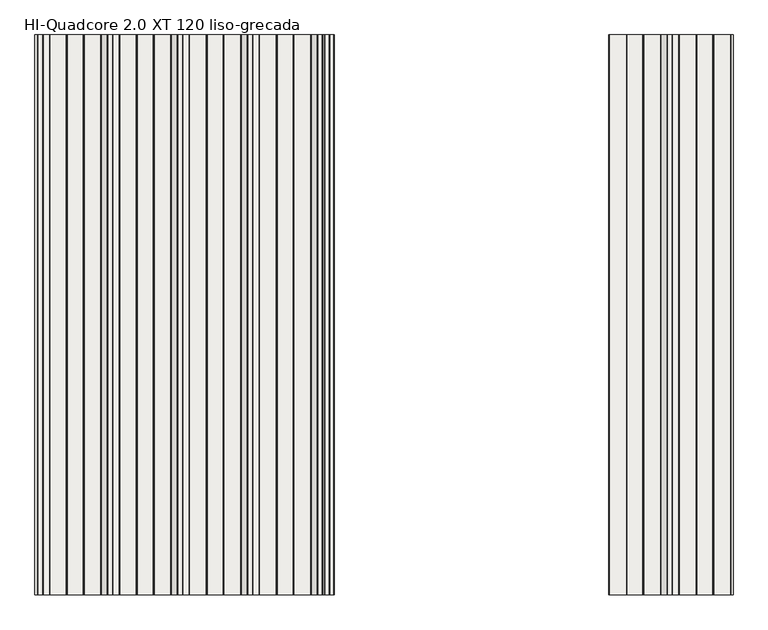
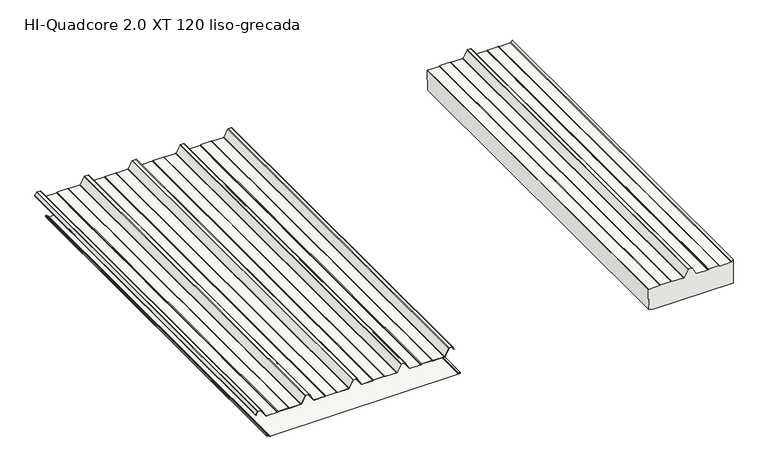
"""IFC4 building model written with IfcOpenShell, lengths in millimetres: slab geometry, HI_QuadCore2.0XT-XT DUAL : HI-Quadcore 2.0 XT 120 liso-grecada."""

from ifc_helpers import new_model, si_unit, point, frame, frame_2d, origin, place, context, project, spatial, polyline, circle_curve, trimmed, segment, composite_curve, outline, extrude, source, transform, mapped, element, save
from ifc_brep_helpers import plane_surface, cylinder_surface, revolved_surface, advanced_brep


def hi_quadcore_2_0_xt_120_liso_grecada_1b2f7235(model_context):
    return source(origin(), model_context, "Body", "SolidModel", [
        extrude(outline(composite_curve([segment(trimmed(circle_curve(frame_2d((123.0, 2615.7454575)), 3.8), [point((121.1370073, 2619.0574446))], [point((119.2, 2615.7454575))], True, "CARTESIAN"), True, "CONTINUOUS"), segment(polyline([(119.2, 2615.7454575), (119.2, 2557.5510443)]), True, "CONTINUOUS"), segment(trimmed(circle_curve(frame_2d((123.0, 2557.5510443)), 3.8), [point((119.2, 2557.5510443))], [point((119.6973596, 2555.671532))], True, "CARTESIAN"), True, "CONTINUOUS"), segment(polyline([(119.6973596, 2555.671532), (120.912055, 2553.5370944)]), True, "CONTINUOUS"), segment(trimmed(circle_curve(frame_2d((119.0, 2552.4489557)), 2.2), [point((120.912055, 2553.5370944))], [point((121.2, 2552.4489557))], False, "CARTESIAN"), True, "CONTINUOUS"), segment(polyline([(121.2, 2552.4489557), (121.2, 2497.5510443)]), True, "CONTINUOUS"), segment(trimmed(circle_curve(frame_2d((119.0, 2497.5510443)), 2.2), [point((121.2, 2497.5510443))], [point((120.912055, 2496.4629056))], False, "CARTESIAN"), True, "CONTINUOUS"), segment(polyline([(120.912055, 2496.4629056), (119.6973596, 2494.328468)]), True, "CONTINUOUS"), segment(trimmed(circle_curve(frame_2d((123.0, 2492.4489557)), 3.8), [point((119.6973596, 2494.328468))], [point((119.2, 2492.4489557))], True, "CARTESIAN"), True, "CONTINUOUS"), segment(polyline([(119.2, 2492.4489557), (119.2, 2434.2545425)]), True, "CONTINUOUS"), segment(trimmed(circle_curve(frame_2d((123.0, 2434.2545425)), 3.8), [point((119.2, 2434.2545425))], [point((121.1370073, 2430.9425554))], True, "CARTESIAN"), True, "CONTINUOUS"), segment(polyline([(121.1370073, 2430.9425554), (158.0785747, 2410.1629237)]), True, "CONTINUOUS"), segment(trimmed(circle_curve(frame_2d((157.0, 2408.2454575)), 2.2), [point((158.0785747, 2410.1629237))], [point((159.2, 2408.2454575))], False, "CARTESIAN"), True, "CONTINUOUS"), segment(polyline([(159.2, 2408.2454575), (159.2, 2391.7545425)]), True, "CONTINUOUS"), segment(trimmed(circle_curve(frame_2d((157.0, 2391.7545425)), 2.2), [point((159.2, 2391.7545425))], [point((158.0785747, 2389.8370763))], False, "CARTESIAN"), True, "CONTINUOUS"), segment(polyline([(158.0785747, 2389.8370763), (121.1370073, 2369.0574446)]), True, "CONTINUOUS"), segment(trimmed(circle_curve(frame_2d((123.0, 2365.7454575)), 3.8), [point((121.1370073, 2369.0574446))], [point((119.2, 2365.7454575))], True, "CARTESIAN"), True, "CONTINUOUS"), segment(polyline([(119.2, 2365.7454575), (119.2, 2307.5510443)]), True, "CONTINUOUS"), segment(trimmed(circle_curve(frame_2d((123.0, 2307.5510443)), 3.8), [point((119.2, 2307.5510443))], [point((119.6973596, 2305.671532))], True, "CARTESIAN"), True, "CONTINUOUS"), segment(polyline([(119.6973596, 2305.671532), (120.912055, 2303.5370944)]), True, "CONTINUOUS"), segment(trimmed(circle_curve(frame_2d((119.0, 2302.4489557)), 2.2), [point((120.912055, 2303.5370944))], [point((121.2, 2302.4489557))], False, "CARTESIAN"), True, "CONTINUOUS"), segment(polyline([(121.2, 2302.4489557), (121.2, 2247.5510443)]), True, "CONTINUOUS"), segment(trimmed(circle_curve(frame_2d((119.0, 2247.5510443)), 2.2), [point((121.2, 2247.5510443))], [point((120.912055, 2246.4629056))], False, "CARTESIAN"), True, "CONTINUOUS"), segment(polyline([(120.912055, 2246.4629056), (119.6973596, 2244.328468)]), True, "CONTINUOUS"), segment(trimmed(circle_curve(frame_2d((123.0, 2242.4489557)), 3.8), [point((119.6973596, 2244.328468))], [point((119.2, 2242.4489557))], True, "CARTESIAN"), True, "CONTINUOUS"), segment(polyline([(119.2, 2242.4489557), (119.2, 2184.6545425)]), True, "CONTINUOUS"), segment(trimmed(circle_curve(frame_2d((123.0, 2184.6545425)), 3.8), [point((119.2, 2184.6545425))], [point((121.2048889, 2181.3052775))], True, "CARTESIAN"), True, "CONTINUOUS"), segment(polyline([(121.2048889, 2181.3052775), (7.0308356, 2184.4622222), (7.2414508, 2185.8457731), (11.9758652, 2185.8456418)]), True, "CONTINUOUS"), segment(trimmed(circle_curve(frame_2d((11.9759207, 2187.8456418)), 2.0), [point((11.9758652, 2185.8456418))], [point((13.390095, 2186.4313891))], True, "CARTESIAN"), True, "CONTINUOUS"), segment(polyline([(13.390095, 2186.4313891), (15.4963556, 2188.5375329), (14.9306702, 2189.1032183), (12.8244253, 2186.9970902)]), True, "CONTINUOUS"), segment(trimmed(circle_curve(frame_2d((11.9759207, 2187.8456418)), 1.2), [point((12.8244253, 2186.9970902))], [point((11.9758874, 2186.6456418))], False, "CARTESIAN"), True, "CONTINUOUS"), segment(polyline([(11.9758874, 2186.6456418), (8.3337062, 2186.6457428)]), True, "CONTINUOUS"), segment(trimmed(circle_curve(frame_2d((8.3337394, 2187.8457428)), 1.2), [point((8.3337062, 2186.6457428))], [point((7.1369439, 2187.7581044))], False, "CARTESIAN"), True, "CONTINUOUS"), segment(polyline([(7.1369439, 2187.7581044), (6.3740035, 2198.1768616)]), True, "CONTINUOUS"), segment(trimmed(circle_curve(frame_2d((3.5874027, 2197.9032632)), 2.8), [point((6.3740035, 2198.1768616))], [point((3.5874804, 2200.7032632))], True, "CARTESIAN"), True, "CONTINUOUS"), segment(polyline([(3.5874804, 2200.7032632), (1.9861605, 2200.7033076)]), True, "CONTINUOUS"), segment(trimmed(circle_curve(frame_2d((1.9861938, 2201.9033076)), 1.2), [point((1.9861605, 2200.7033076))], [point((0.7861938, 2201.9033408))], False, "CARTESIAN"), True, "CONTINUOUS"), segment(polyline([(0.7861938, 2201.9033408), (0.7979214, 2624.9329116), (131.582282, 2624.9329116), (121.1370073, 2619.0574446)]), True, "CONTINUOUS")], self_intersect=False)), frame((0.0, 0.0, 0.0), z_axis=(0.0, 1.0, 0.0), x_axis=(0.0, 0.0, 1.0)), (0.0, 0.0, 1.0), 2000.0),
        advanced_brep(
        [(186.4313891, 0.0, 13.3795578), (185.8456418, 0.0, 11.9654043), (185.8456037, 0.0, 8.2995811), (187.6996787, 0.0, 6.328543), (198.1077232, 0.0, 5.5663871), (199.9032632, 0.0, 3.5769209), (199.9033076, 0.0, 1.9756011), (201.903363, 0.0, -0.0243435), (1197.9162803, 0.0, 0.003269), (1199.9046779, 0.0, 2.0032908), (1199.904653, 0.0, 2.9012893), (1198.0077486, 0.0, 4.8985749), (1186.1928118, 0.0, 5.7933732), (1184.3438482, 0.0, 7.7876066), (1184.3437386, 0.0, 11.7402379), (1183.757913, 0.0, 13.1544352), (1182.3436602, 0.0, 14.5686095), (1181.7779748, 0.0, 14.0029241), (1183.1922433, 0.0, 12.5887341), (1183.5437386, 0.0, 11.7402157), (1183.5438482, 0.0, 7.7875844), (1186.1323972, 0.0, 4.9956577), (1197.958132, 0.0, 4.1000416), (1199.104653, 0.0, 2.9012672), (1199.1046779, 0.0, 2.0032686), (1197.9136554, 0.0, 0.8032689), (201.9033408, 0.0, 0.7756565), (200.7033076, 0.0, 1.9756233), (200.7032632, 0.0, 3.5769431), (198.1768616, 0.0, 6.3634663), (187.7581044, 0.0, 7.1264067), (186.6457428, 0.0, 8.3231689), (186.6456418, 0.0, 11.965396), (186.9970902, 0.0, 12.8138881), (189.1032183, 0.0, 14.920133), (188.5375329, 0.0, 15.4858184), (186.4313891, 2000.0, 13.3795578), (188.5375329, 2000.0, 15.4858184), (189.1032183, 2000.0, 14.920133), (186.9970902, 2000.0, 12.8138881), (186.6456418, 2000.0, 11.965396), (186.6456037, 2000.0, 8.2995728), (187.7581044, 2000.0, 7.1264067), (198.1768616, 2000.0, 6.3634663), (200.7032632, 2000.0, 3.5769431), (200.7033076, 2000.0, 1.9756233), (201.9033408, 2000.0, 0.7756565), (1197.9136554, 2000.0, 0.8032689), (1199.1046779, 2000.0, 2.0032686), (1199.104653, 2000.0, 2.9012672), (1197.958132, 2000.0, 4.1000416), (1186.1323972, 2000.0, 4.9956577), (1183.5438482, 2000.0, 7.7875844), (1183.5437386, 2000.0, 11.7402157), (1183.1922433, 2000.0, 12.5887341), (1181.7779748, 2000.0, 14.0029241), (1182.3436602, 2000.0, 14.5686095), (1183.757913, 2000.0, 13.1544352), (1184.3437386, 2000.0, 11.7402379), (1184.3438482, 2000.0, 7.7876066), (1186.1928118, 2000.0, 5.7933732), (1198.0077486, 2000.0, 4.8985749), (1199.904653, 2000.0, 2.9012893), (1199.9046779, 2000.0, 2.0032908), (1197.9162803, 2000.0, 0.003269), (201.903363, 2000.0, -0.0243435), (199.9033076, 2000.0, 1.9756011), (199.9032632, 2000.0, 3.5769209), (198.1077232, 2000.0, 5.5663871), (187.6996787, 2000.0, 6.328543), (185.8457428, 2000.0, 8.3231467), (185.8456418, 2000.0, 11.9654043)],
        [
            (0, 1, circle_curve(frame((187.8456418, 0.0, 11.9653834), z_axis=(0.0, -1.0, 0.0), x_axis=(1.0, 0.0, 0.0)), 2.0)),
            (1, 2),
            (2, 3, circle_curve(frame((187.8457428, 0.0, 8.3232022), z_axis=(0.0, -1.0, 0.0), x_axis=(1.0, 0.0, 0.0)), 2.0)),
            (3, 4),
            (4, 5, circle_curve(frame((197.9032632, 0.0, 3.5768655), z_axis=(0.0, 1.0, 0.0), x_axis=(1.0, 0.0, 0.0)), 2.0)),
            (5, 6),
            (6, 7, circle_curve(frame((201.9033076, 0.0, 1.9756565), z_axis=(0.0, -1.0, 0.0), x_axis=(1.0, 0.0, 0.0)), 2.0)),
            (7, 8),
            (8, 9, circle_curve(frame((1197.9046779, 0.0, 2.0032353), z_axis=(0.0, -1.0, 0.0), x_axis=(1.0, 0.0, 0.0)), 2.0)),
            (9, 10),
            (10, 11, circle_curve(frame((1197.904653, 0.0, 2.9012339), z_axis=(0.0, -1.0, 0.0), x_axis=(1.0, 0.0, 0.0)), 2.0)),
            (11, 12),
            (12, 13, circle_curve(frame((1186.3438482, 0.0, 7.7876621), z_axis=(0.0, 1.0, 0.0), x_axis=(1.0, 0.0, 0.0)), 2.0)),
            (13, 14),
            (14, 15, circle_curve(frame((1182.3437386, 0.0, 11.7401824), z_axis=(0.0, -1.0, 0.0), x_axis=(1.0, 0.0, 0.0)), 2.0)),
            (15, 16),
            (16, 17),
            (17, 18),
            (18, 19, circle_curve(frame((1182.3437386, 0.0, 11.7401824), z_axis=(0.0, 1.0, 0.0), x_axis=(1.0, 0.0, 0.0)), 1.2)),
            (19, 20),
            (20, 21, circle_curve(frame((1186.3438482, 0.0, 7.7876621), z_axis=(0.0, -1.0, 0.0), x_axis=(1.0, 0.0, 0.0)), 2.8)),
            (21, 22),
            (22, 23, circle_curve(frame((1197.904653, 0.0, 2.9012339), z_axis=(0.0, 1.0, 0.0), x_axis=(1.0, 0.0, 0.0)), 1.2)),
            (23, 24),
            (24, 25, circle_curve(frame((1197.9046779, 0.0, 2.0032353), z_axis=(0.0, 1.0, 0.0), x_axis=(1.0, 0.0, 0.0)), 1.2)),
            (25, 26),
            (26, 27, circle_curve(frame((201.9033076, 0.0, 1.9756565), z_axis=(0.0, 1.0, 0.0), x_axis=(1.0, 0.0, 0.0)), 1.2)),
            (27, 28),
            (28, 29, circle_curve(frame((197.9032632, 0.0, 3.5768655), z_axis=(0.0, -1.0, 0.0), x_axis=(1.0, 0.0, 0.0)), 2.8)),
            (29, 30),
            (30, 31, circle_curve(frame((187.8457428, 0.0, 8.3232022), z_axis=(0.0, 1.0, 0.0), x_axis=(1.0, 0.0, 0.0)), 1.2)),
            (31, 32),
            (32, 33, circle_curve(frame((187.8456418, 0.0, 11.9653834), z_axis=(0.0, 1.0, 0.0), x_axis=(1.0, 0.0, 0.0)), 1.2)),
            (33, 34),
            (34, 35),
            (35, 0),
            (36, 37),
            (37, 38),
            (38, 39),
            (39, 40, circle_curve(frame((187.8456418, 2000.0, 11.9653834), z_axis=(0.0, -1.0, 0.0), x_axis=(1.0, 0.0, 0.0)), 1.2)),
            (40, 41),
            (41, 42, circle_curve(frame((187.8457428, 2000.0, 8.3232022), z_axis=(0.0, -1.0, 0.0), x_axis=(1.0, 0.0, 0.0)), 1.2)),
            (42, 43),
            (43, 44, circle_curve(frame((197.9032632, 2000.0, 3.5768655), z_axis=(0.0, 1.0, 0.0), x_axis=(1.0, 0.0, 0.0)), 2.8)),
            (44, 45),
            (45, 46, circle_curve(frame((201.9033076, 2000.0, 1.9756565), z_axis=(0.0, -1.0, 0.0), x_axis=(1.0, 0.0, 0.0)), 1.2)),
            (46, 47),
            (47, 48, circle_curve(frame((1197.9046779, 2000.0, 2.0032353), z_axis=(0.0, -1.0, 0.0), x_axis=(1.0, 0.0, 0.0)), 1.2)),
            (48, 49),
            (49, 50, circle_curve(frame((1197.904653, 2000.0, 2.9012339), z_axis=(0.0, -1.0, 0.0), x_axis=(1.0, 0.0, 0.0)), 1.2)),
            (50, 51),
            (51, 52, circle_curve(frame((1186.3438482, 2000.0, 7.7876621), z_axis=(0.0, 1.0, 0.0), x_axis=(1.0, 0.0, 0.0)), 2.8)),
            (52, 53),
            (53, 54, circle_curve(frame((1182.3437386, 2000.0, 11.7401824), z_axis=(0.0, -1.0, 0.0), x_axis=(1.0, 0.0, 0.0)), 1.2)),
            (54, 55),
            (55, 56),
            (56, 57),
            (57, 58, circle_curve(frame((1182.3437386, 2000.0, 11.7401824), z_axis=(0.0, 1.0, 0.0), x_axis=(1.0, 0.0, 0.0)), 2.0)),
            (58, 59),
            (59, 60, circle_curve(frame((1186.3438482, 2000.0, 7.7876621), z_axis=(0.0, -1.0, 0.0), x_axis=(1.0, 0.0, 0.0)), 2.0)),
            (60, 61),
            (61, 62, circle_curve(frame((1197.904653, 2000.0, 2.9012339), z_axis=(0.0, 1.0, 0.0), x_axis=(1.0, 0.0, 0.0)), 2.0)),
            (62, 63),
            (63, 64, circle_curve(frame((1197.9046779, 2000.0, 2.0032353), z_axis=(0.0, 1.0, 0.0), x_axis=(1.0, 0.0, 0.0)), 2.0)),
            (64, 65),
            (65, 66, circle_curve(frame((201.9033076, 2000.0, 1.9756565), z_axis=(0.0, 1.0, 0.0), x_axis=(1.0, 0.0, 0.0)), 2.0)),
            (66, 67),
            (67, 68, circle_curve(frame((197.9032632, 2000.0, 3.5768655), z_axis=(0.0, -1.0, 0.0), x_axis=(1.0, 0.0, 0.0)), 2.0)),
            (68, 69),
            (69, 70, circle_curve(frame((187.8457428, 2000.0, 8.3232022), z_axis=(0.0, 1.0, 0.0), x_axis=(1.0, 0.0, 0.0)), 2.0)),
            (70, 71),
            (71, 36, circle_curve(frame((187.8456418, 2000.0, 11.9653834), z_axis=(0.0, 1.0, 0.0), x_axis=(1.0, 0.0, 0.0)), 2.0)),
            (0, 36),
            (71, 1),
            (70, 2),
            (69, 3),
            (68, 4),
            (67, 5),
            (66, 6),
            (65, 7),
            (64, 8),
            (63, 9),
            (62, 10),
            (61, 11),
            (60, 12),
            (59, 13),
            (58, 14),
            (57, 15),
            (56, 16),
            (55, 17),
            (54, 18),
            (53, 19),
            (52, 20),
            (51, 21),
            (50, 22),
            (49, 23),
            (48, 24),
            (47, 25),
            (46, 26),
            (45, 27),
            (44, 28),
            (43, 29),
            (42, 30),
            (41, 31),
            (40, 32),
            (39, 33),
            (38, 34),
            (37, 35),
        ],
        [
            plane_surface(frame((189.8456418, 0.0, 11.9653834), z_axis=(0.0, -1.0, 0.0), x_axis=(0.0, 0.0, 1.0))),
            plane_surface(frame((189.8456418, 2000.0, 11.9653834), z_axis=(0.0, 1.0, 0.0), x_axis=(0.0, 0.0, -1.0))),
            cylinder_surface(frame((187.8456418, 2000.0, 11.9653834), z_axis=(0.0, -1.0, 0.0), x_axis=(1.0, 0.0, 0.0)), 2.0),
            plane_surface(frame((185.8456418, 0.0, 11.9654043), z_axis=(-0.9999999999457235, 0.0, 1.041887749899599e-05), x_axis=(0.0, 1.0, 0.0))),
            cylinder_surface(frame((187.8457428, 2000.0, 8.3232022), z_axis=(0.0, -1.0, 0.0), x_axis=(1.0, 0.0, 0.0)), 2.0),
            plane_surface(frame((187.6996787, 0.0, 6.328543), z_axis=(-0.07303203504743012, 0.0, -0.9973295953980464), x_axis=(0.0, 1.0, 0.0))),
            revolved_surface(polyline([(199.9032632, 2000.0, 3.5768655), (199.9032632, 0.0, 3.5768655)]), (197.9032632, 2000.0, 3.5768655), (0.0, 1.0, 0.0)),
            plane_surface(frame((199.9032632, 0.0, 3.5769209), z_axis=(-0.9999999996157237, 0.0, -2.7722781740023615e-05), x_axis=(0.0, 1.0, 0.0))),
            cylinder_surface(frame((201.9033076, 2000.0, 1.9756565), z_axis=(0.0, -1.0, 0.0), x_axis=(1.0, 0.0, 0.0)), 2.0),
            plane_surface(frame((201.903363, 0.0, -0.0243435), z_axis=(2.772298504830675e-05, 0.0, -0.9999999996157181), x_axis=(0.0, 1.0, 0.0))),
            cylinder_surface(frame((1197.9046779, 2000.0, 2.0032353), z_axis=(0.0, -1.0, 0.0), x_axis=(1.0, 0.0, 0.0)), 2.0),
            plane_surface(frame((1199.9046779, 0.0, 2.0032908), z_axis=(0.9999999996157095, 0.0, 2.7723295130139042e-05), x_axis=(0.0, 1.0, 0.0))),
            cylinder_surface(frame((1197.904653, 2000.0, 2.9012339), z_axis=(0.0, -1.0, 0.0), x_axis=(1.0, 0.0, 0.0)), 2.0),
            plane_surface(frame((1198.0077486, 0.0, 4.8985749), z_axis=(0.07551822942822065, 0.0, 0.9971444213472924), x_axis=(0.0, 1.0, 0.0))),
            revolved_surface(polyline([(1188.3438482, 2000.0, 7.7876621), (1188.3438482, 0.0, 7.7876621)]), (1186.3438482, 2000.0, 7.7876621), (0.0, 1.0, 0.0)),
            plane_surface(frame((1184.3438482, 0.0, 7.7876066), z_axis=(0.9999999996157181, 0.0, 2.7722984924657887e-05), x_axis=(0.0, 1.0, 0.0))),
            cylinder_surface(frame((1182.3437386, 2000.0, 11.7401824), z_axis=(0.0, -1.0, 0.0), x_axis=(1.0, 0.0, 0.0)), 2.0),
            plane_surface(frame((1183.757913, 0.0, 13.1544352), z_axis=(0.7070871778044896, 0.0, 0.7071263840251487), x_axis=(0.0, 1.0, 0.0))),
            plane_surface(frame((1182.3436602, 0.0, 14.5686095), z_axis=(-0.7071067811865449, 0.0, 0.7071067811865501), x_axis=(0.0, 1.0, 0.0))),
            plane_surface(frame((1181.7779748, 0.0, 14.0029241), z_axis=(-0.7070871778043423, 0.0, -0.707126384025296), x_axis=(0.0, 1.0, 0.0))),
            revolved_surface(polyline([(1183.5437386, 2000.0, 11.7401824), (1183.5437386, 0.0, 11.7401824)]), (1182.3437386, 2000.0, 11.7401824), (0.0, 1.0, 0.0)),
            plane_surface(frame((1183.5437386, 0.0, 11.7402157), z_axis=(-0.9999999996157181, 0.0, -2.7722985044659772e-05), x_axis=(0.0, 1.0, 0.0))),
            cylinder_surface(frame((1186.3438482, 2000.0, 7.7876621), z_axis=(0.0, -1.0, 0.0), x_axis=(1.0, 0.0, 0.0)), 2.8),
            plane_surface(frame((1186.1323972, 0.0, 4.9956577), z_axis=(-0.07551822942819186, 0.0, -0.9971444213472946), x_axis=(0.0, 1.0, 0.0))),
            revolved_surface(polyline([(1199.104653, 2000.0, 2.9012339), (1199.104653, 0.0, 2.9012339)]), (1197.904653, 2000.0, 2.9012339), (0.0, 1.0, 0.0)),
            plane_surface(frame((1199.104653, 0.0, 2.9012672), z_axis=(-0.9999999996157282, 0.0, -2.7722622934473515e-05), x_axis=(0.0, 1.0, 0.0))),
            revolved_surface(polyline([(1199.1046779, 2000.0, 2.0032353), (1199.1046779, 0.0, 2.0032353)]), (1197.9046779, 2000.0, 2.0032353), (0.0, 1.0, 0.0)),
            plane_surface(frame((1197.9136554, 0.0, 0.8032689), z_axis=(-2.7722985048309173e-05, 0.0, 0.9999999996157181), x_axis=(0.0, 1.0, 0.0))),
            revolved_surface(polyline([(203.1033076, 2000.0, 1.9756565), (203.1033076, 0.0, 1.9756565)]), (201.9033076, 2000.0, 1.9756565), (0.0, 1.0, 0.0)),
            plane_surface(frame((200.7033076, 0.0, 1.9756233), z_axis=(0.9999999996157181, 0.0, 2.7722983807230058e-05), x_axis=(0.0, 1.0, 0.0))),
            cylinder_surface(frame((197.9032632, 2000.0, 3.5768655), z_axis=(0.0, -1.0, 0.0), x_axis=(1.0, 0.0, 0.0)), 2.8),
            plane_surface(frame((198.1768616, 0.0, 6.3634663), z_axis=(0.0730320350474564, 0.0, 0.9973295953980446), x_axis=(0.0, 1.0, 0.0))),
            revolved_surface(polyline([(189.0457428, 2000.0, 8.3232022), (189.0457428, 0.0, 8.3232022)]), (187.8457428, 2000.0, 8.3232022), (0.0, 1.0, 0.0)),
            plane_surface(frame((186.6456037, 0.0, 8.2995728), z_axis=(0.9999999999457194, 0.0, -1.0419274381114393e-05), x_axis=(0.0, 1.0, 0.0))),
            revolved_surface(polyline([(189.0456418, 2000.0, 11.9653834), (189.0456418, 0.0, 11.9653834)]), (187.8456418, 2000.0, 11.9653834), (0.0, 1.0, 0.0)),
            plane_surface(frame((186.9970902, 0.0, 12.8138881), z_axis=(0.7071263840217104, 0.0, -0.7070871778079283), x_axis=(0.0, 1.0, 0.0))),
            plane_surface(frame((189.1032183, 0.0, 14.920133), z_axis=(0.7071067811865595, 0.0, 0.7071067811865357), x_axis=(0.0, 1.0, 0.0))),
            plane_surface(frame((188.5375329, 0.0, 15.4858184), z_axis=(-0.7071263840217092, 0.0, 0.7070871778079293), x_axis=(0.0, 1.0, 0.0))),
        ],
        [
            (0, [[1, 2, 3, 4, 5, 6, 7, 8, 9, 10, 11, 12, 13, 14, 15, 16, 17, 18, 19, 20, 21, 22, 23, 24, 25, 26, 27, 28, 29, 30, 31, 32, 33, 34, 35, 36]]),
            (1, [[37, 38, 39, 40, 41, 42, 43, 44, 45, 46, 47, 48, 49, 50, 51, 52, 53, 54, 55, 56, 57, 58, 59, 60, 61, 62, 63, 64, 65, 66, 67, 68, 69, 70, 71, 72]]),
            (2, [[-1, 73, -72, 74]]),
            (3, [[-2, -74, -71, 75]]),
            (4, [[-3, -75, -70, 76]]),
            (5, [[-4, -76, -69, 77]]),
            (6, [[-5, -77, -68, 78]]),
            (7, [[-6, -78, -67, 79]]),
            (8, [[-7, -79, -66, 80]]),
            (9, [[-8, -80, -65, 81]]),
            (10, [[-9, -81, -64, 82]]),
            (11, [[-10, -82, -63, 83]]),
            (12, [[-11, -83, -62, 84]]),
            (13, [[-12, -84, -61, 85]]),
            (14, [[-13, -85, -60, 86]]),
            (15, [[-14, -86, -59, 87]]),
            (16, [[-15, -87, -58, 88]]),
            (17, [[-16, -88, -57, 89]]),
            (18, [[-17, -89, -56, 90]]),
            (19, [[-18, -90, -55, 91]]),
            (20, [[-19, -91, -54, 92]]),
            (21, [[-20, -92, -53, 93]]),
            (22, [[-21, -93, -52, 94]]),
            (23, [[-22, -94, -51, 95]]),
            (24, [[-23, -95, -50, 96]]),
            (25, [[-24, -96, -49, 97]]),
            (26, [[-25, -97, -48, 98]]),
            (27, [[-26, -98, -47, 99]]),
            (28, [[-27, -99, -46, 100]]),
            (29, [[-28, -100, -45, 101]]),
            (30, [[-29, -101, -44, 102]]),
            (31, [[-30, -102, -43, 103]]),
            (32, [[-31, -103, -42, 104]]),
            (33, [[-32, -104, -41, 105]]),
            (34, [[-33, -105, -40, 106]]),
            (35, [[-34, -106, -39, 107]]),
            (36, [[-35, -107, -38, 108]]),
            (37, [[-36, -108, -37, -73]]),
        ],
    ),
        extrude(outline(composite_curve([segment(polyline([(158.1649405, 138.5141429), (143.6579587, 130.3539656)]), True, "CONTINUOUS"), segment(trimmed(circle_curve(frame_2d((143.0451321, 131.443435)), 1.25), [point((143.6579587, 130.3539656))], [point((142.689225, 132.6416963))], False, "CARTESIAN"), True, "CONTINUOUS"), segment(polyline([(142.689225, 132.6416963), (145.7359115, 133.437141), (145.9380053, 132.663088), (142.9074492, 131.8718547)]), True, "CONTINUOUS"), segment(trimmed(circle_curve(frame_2d((143.0451321, 131.443435)), 0.45), [point((142.9074492, 131.8718547))], [point((143.2657497, 131.051226))], True, "CARTESIAN"), True, "CONTINUOUS"), segment(polyline([(143.2657497, 131.051226), (157.7727315, 139.2114033)]), True, "CONTINUOUS"), segment(trimmed(circle_curve(frame_2d((156.4, 141.6518148)), 2.8), [point((157.7727315, 139.2114033))], [point((159.2, 141.6518148))], True, "CARTESIAN"), True, "CONTINUOUS"), segment(polyline([(159.2, 141.6518148), (159.2, 158.9311117)]), True, "CONTINUOUS"), segment(trimmed(circle_curve(frame_2d((156.4, 158.9311117)), 2.8), [point((159.2, 158.9311117))], [point((157.5457267, 161.4859719))], True, "CARTESIAN"), True, "CONTINUOUS"), segment(polyline([(157.5457267, 161.4859719), (121.2048889, 181.3052775)]), True, "CONTINUOUS"), segment(trimmed(circle_curve(frame_2d((123.0, 184.6545425)), 3.8), [point((121.2048889, 181.3052775))], [point((119.2, 184.6545425))], False, "CARTESIAN"), True, "CONTINUOUS"), segment(polyline([(119.2, 184.6545425), (119.2, 242.4489557)]), True, "CONTINUOUS"), segment(trimmed(circle_curve(frame_2d((123.0, 242.4489557)), 3.8), [point((119.2, 242.4489557))], [point((119.6973596, 244.328468))], False, "CARTESIAN"), True, "CONTINUOUS"), segment(polyline([(119.6973596, 244.328468), (120.912055, 246.4629056)]), True, "CONTINUOUS"), segment(trimmed(circle_curve(frame_2d((119.0, 247.5510443)), 2.2), [point((120.912055, 246.4629056))], [point((121.2, 247.5510443))], True, "CARTESIAN"), True, "CONTINUOUS"), segment(polyline([(121.2, 247.5510443), (121.2, 302.4489557)]), True, "CONTINUOUS"), segment(trimmed(circle_curve(frame_2d((119.0, 302.4489557)), 2.2), [point((121.2, 302.4489557))], [point((120.912055, 303.5370944))], True, "CARTESIAN"), True, "CONTINUOUS"), segment(polyline([(120.912055, 303.5370944), (119.6973596, 305.671532)]), True, "CONTINUOUS"), segment(trimmed(circle_curve(frame_2d((123.0, 307.5510443)), 3.8), [point((119.6973596, 305.671532))], [point((119.2, 307.5510443))], False, "CARTESIAN"), True, "CONTINUOUS"), segment(polyline([(119.2, 307.5510443), (119.2, 365.7454575)]), True, "CONTINUOUS"), segment(trimmed(circle_curve(frame_2d((123.0, 365.7454575)), 3.8), [point((119.2, 365.7454575))], [point((121.1370073, 369.0574446))], False, "CARTESIAN"), True, "CONTINUOUS"), segment(polyline([(121.1370073, 369.0574446), (158.0785747, 389.8370763)]), True, "CONTINUOUS"), segment(trimmed(circle_curve(frame_2d((157.0, 391.7545425)), 2.2), [point((158.0785747, 389.8370763))], [point((159.2, 391.7545425))], True, "CARTESIAN"), True, "CONTINUOUS"), segment(polyline([(159.2, 391.7545425), (159.2, 408.2454575)]), True, "CONTINUOUS"), segment(trimmed(circle_curve(frame_2d((157.0, 408.2454575)), 2.2), [point((159.2, 408.2454575))], [point((158.0785747, 410.1629237))], True, "CARTESIAN"), True, "CONTINUOUS"), segment(polyline([(158.0785747, 410.1629237), (121.1370073, 430.9425554)]), True, "CONTINUOUS"), segment(trimmed(circle_curve(frame_2d((123.0, 434.2545425)), 3.8), [point((121.1370073, 430.9425554))], [point((119.2, 434.2545425))], False, "CARTESIAN"), True, "CONTINUOUS"), segment(polyline([(119.2, 434.2545425), (119.2, 492.4489557)]), True, "CONTINUOUS"), segment(trimmed(circle_curve(frame_2d((123.0, 492.4489557)), 3.8), [point((119.2, 492.4489557))], [point((119.6973596, 494.328468))], False, "CARTESIAN"), True, "CONTINUOUS"), segment(polyline([(119.6973596, 494.328468), (120.912055, 496.4629056)]), True, "CONTINUOUS"), segment(trimmed(circle_curve(frame_2d((119.0, 497.5510443)), 2.2), [point((120.912055, 496.4629056))], [point((121.2, 497.5510443))], True, "CARTESIAN"), True, "CONTINUOUS"), segment(polyline([(121.2, 497.5510443), (121.2, 552.4489557)]), True, "CONTINUOUS"), segment(trimmed(circle_curve(frame_2d((119.0, 552.4489557)), 2.2), [point((121.2, 552.4489557))], [point((120.912055, 553.5370944))], True, "CARTESIAN"), True, "CONTINUOUS"), segment(polyline([(120.912055, 553.5370944), (119.6973596, 555.671532)]), True, "CONTINUOUS"), segment(trimmed(circle_curve(frame_2d((123.0, 557.5510443)), 3.8), [point((119.6973596, 555.671532))], [point((119.2, 557.5510443))], False, "CARTESIAN"), True, "CONTINUOUS"), segment(polyline([(119.2, 557.5510443), (119.2, 615.7454575)]), True, "CONTINUOUS"), segment(trimmed(circle_curve(frame_2d((123.0, 615.7454575)), 3.8), [point((119.2, 615.7454575))], [point((121.1370073, 619.0574446))], False, "CARTESIAN"), True, "CONTINUOUS"), segment(polyline([(121.1370073, 619.0574446), (158.0785747, 639.8370763)]), True, "CONTINUOUS"), segment(trimmed(circle_curve(frame_2d((157.0, 641.7545425)), 2.2), [point((158.0785747, 639.8370763))], [point((159.2, 641.7545425))], True, "CARTESIAN"), True, "CONTINUOUS"), segment(polyline([(159.2, 641.7545425), (159.2, 658.2454575)]), True, "CONTINUOUS"), segment(trimmed(circle_curve(frame_2d((157.0, 658.2454575)), 2.2), [point((159.2, 658.2454575))], [point((158.0785747, 660.1629237))], True, "CARTESIAN"), True, "CONTINUOUS"), segment(polyline([(158.0785747, 660.1629237), (121.1370073, 680.9425554)]), True, "CONTINUOUS"), segment(trimmed(circle_curve(frame_2d((123.0, 684.2545425)), 3.8), [point((121.1370073, 680.9425554))], [point((119.2, 684.2545425))], False, "CARTESIAN"), True, "CONTINUOUS"), segment(polyline([(119.2, 684.2545425), (119.2, 742.4489557)]), True, "CONTINUOUS"), segment(trimmed(circle_curve(frame_2d((123.0, 742.4489557)), 3.8), [point((119.2, 742.4489557))], [point((119.6973596, 744.328468))], False, "CARTESIAN"), True, "CONTINUOUS"), segment(polyline([(119.6973596, 744.328468), (120.912055, 746.4629056)]), True, "CONTINUOUS"), segment(trimmed(circle_curve(frame_2d((119.0, 747.5510443)), 2.2), [point((120.912055, 746.4629056))], [point((121.2, 747.5510443))], True, "CARTESIAN"), True, "CONTINUOUS"), segment(polyline([(121.2, 747.5510443), (121.2, 802.4489557)]), True, "CONTINUOUS"), segment(trimmed(circle_curve(frame_2d((119.0, 802.4489557)), 2.2), [point((121.2, 802.4489557))], [point((120.912055, 803.5370944))], True, "CARTESIAN"), True, "CONTINUOUS"), segment(polyline([(120.912055, 803.5370944), (119.6973596, 805.671532)]), True, "CONTINUOUS"), segment(trimmed(circle_curve(frame_2d((123.0, 807.5510443)), 3.8), [point((119.6973596, 805.671532))], [point((119.2, 807.5510443))], False, "CARTESIAN"), True, "CONTINUOUS"), segment(polyline([(119.2, 807.5510443), (119.2, 865.7454575)]), True, "CONTINUOUS"), segment(trimmed(circle_curve(frame_2d((123.0, 865.7454575)), 3.8), [point((119.2, 865.7454575))], [point((121.1370073, 869.0574446))], False, "CARTESIAN"), True, "CONTINUOUS"), segment(polyline([(121.1370073, 869.0574446), (158.0785747, 889.8370763)]), True, "CONTINUOUS"), segment(trimmed(circle_curve(frame_2d((157.0, 891.7545425)), 2.2), [point((158.0785747, 889.8370763))], [point((159.2, 891.7545425))], True, "CARTESIAN"), True, "CONTINUOUS"), segment(polyline([(159.2, 891.7545425), (159.2, 908.2454575)]), True, "CONTINUOUS"), segment(trimmed(circle_curve(frame_2d((157.0, 908.2454575)), 2.2), [point((159.2, 908.2454575))], [point((158.0785747, 910.1629237))], True, "CARTESIAN"), True, "CONTINUOUS"), segment(polyline([(158.0785747, 910.1629237), (121.1370073, 930.9425554)]), True, "CONTINUOUS"), segment(trimmed(circle_curve(frame_2d((123.0, 934.2545425)), 3.8), [point((121.1370073, 930.9425554))], [point((119.2, 934.2545425))], False, "CARTESIAN"), True, "CONTINUOUS"), segment(polyline([(119.2, 934.2545425), (119.2, 992.4489557)]), True, "CONTINUOUS"), segment(trimmed(circle_curve(frame_2d((123.0, 992.4489557)), 3.8), [point((119.2, 992.4489557))], [point((119.6973596, 994.328468))], False, "CARTESIAN"), True, "CONTINUOUS"), segment(polyline([(119.6973596, 994.328468), (120.912055, 996.4629056)]), True, "CONTINUOUS"), segment(trimmed(circle_curve(frame_2d((119.0, 997.5510443)), 2.2), [point((120.912055, 996.4629056))], [point((121.2, 997.5510443))], True, "CARTESIAN"), True, "CONTINUOUS"), segment(polyline([(121.2, 997.5510443), (121.2, 1052.4489557)]), True, "CONTINUOUS"), segment(trimmed(circle_curve(frame_2d((119.0, 1052.4489557)), 2.2), [point((121.2, 1052.4489557))], [point((120.912055, 1053.5370944))], True, "CARTESIAN"), True, "CONTINUOUS"), segment(polyline([(120.912055, 1053.5370944), (119.6973596, 1055.671532)]), True, "CONTINUOUS"), segment(trimmed(circle_curve(frame_2d((123.0, 1057.5510443)), 3.8), [point((119.6973596, 1055.671532))], [point((119.2, 1057.5510443))], False, "CARTESIAN"), True, "CONTINUOUS"), segment(polyline([(119.2, 1057.5510443), (119.2, 1116.4208923)]), True, "CONTINUOUS"), segment(trimmed(circle_curve(frame_2d((123.0, 1116.4208923)), 3.8), [point((119.2, 1116.4208923))], [point((121.1583504, 1119.7447946))], False, "CARTESIAN"), True, "CONTINUOUS"), segment(polyline([(121.1583504, 1119.7447946), (158.0662182, 1140.1940602)]), True, "CONTINUOUS"), segment(trimmed(circle_curve(frame_2d((157.0, 1142.1184247)), 2.2), [point((158.0662182, 1140.1940602))], [point((159.2, 1142.1184247))], True, "CARTESIAN"), True, "CONTINUOUS"), segment(polyline([(159.2, 1142.1184247), (159.2, 1157.4945491)]), True, "CONTINUOUS"), segment(trimmed(circle_curve(frame_2d((157.0, 1157.4945491)), 2.2), [point((159.2, 1157.4945491))], [point((158.0785747, 1159.4120152))], True, "CARTESIAN"), True, "CONTINUOUS"), segment(polyline([(158.0785747, 1159.4120152), (147.5275176, 1165.3469849)]), True, "CONTINUOUS"), segment(trimmed(circle_curve(frame_2d((146.9392041, 1164.3010942)), 1.2), [point((147.5275176, 1165.3469849))], [point((146.3392623, 1165.3403583))], True, "CARTESIAN"), True, "CONTINUOUS"), segment(polyline([(146.3392623, 1165.3403583), (144.7281681, 1164.4103128), (144.3282068, 1165.1031555), (145.939301, 1166.033201)]), True, "CONTINUOUS"), segment(trimmed(circle_curve(frame_2d((146.9392041, 1164.3010942)), 2.0), [point((145.939301, 1166.033201))], [point((147.9197266, 1166.0442453))], False, "CARTESIAN"), True, "CONTINUOUS"), segment(polyline([(147.9197266, 1166.0442453), (158.4707837, 1160.1092757)]), True, "CONTINUOUS"), segment(trimmed(circle_curve(frame_2d((157.0, 1157.4945491)), 3.0), [point((158.4707837, 1160.1092757))], [point((160.0, 1157.4945491))], False, "CARTESIAN"), True, "CONTINUOUS"), segment(polyline([(160.0, 1157.4945491), (160.0, 1142.1184247)]), True, "CONTINUOUS"), segment(trimmed(circle_curve(frame_2d((157.0, 1142.1184247)), 3.0), [point((160.0, 1142.1184247))], [point((158.4539339, 1139.4942913))], False, "CARTESIAN"), True, "CONTINUOUS"), segment(polyline([(158.4539339, 1139.4942913), (121.5460661, 1119.0450257)]), True, "CONTINUOUS"), segment(trimmed(circle_curve(frame_2d((123.0, 1116.4208923)), 3.0), [point((121.5460661, 1119.0450257))], [point((120.0, 1116.4208923))], True, "CARTESIAN"), True, "CONTINUOUS"), segment(polyline([(120.0, 1116.4208923), (120.0, 1057.5510443)]), True, "CONTINUOUS"), segment(trimmed(circle_curve(frame_2d((123.0, 1057.5510443)), 3.0), [point((120.0, 1057.5510443))], [point((120.3926523, 1056.0672188))], True, "CARTESIAN"), True, "CONTINUOUS"), segment(polyline([(120.3926523, 1056.0672188), (121.6073477, 1053.9327812)]), True, "CONTINUOUS"), segment(trimmed(circle_curve(frame_2d((119.0, 1052.4489557)), 3.0), [point((121.6073477, 1053.9327812))], [point((122.0, 1052.4489557))], False, "CARTESIAN"), True, "CONTINUOUS"), segment(polyline([(122.0, 1052.4489557), (122.0, 997.5510443)]), True, "CONTINUOUS"), segment(trimmed(circle_curve(frame_2d((119.0, 997.5510443)), 3.0), [point((122.0, 997.5510443))], [point((121.6073477, 996.0672188))], False, "CARTESIAN"), True, "CONTINUOUS"), segment(polyline([(121.6073477, 996.0672188), (120.3926523, 993.9327812)]), True, "CONTINUOUS"), segment(trimmed(circle_curve(frame_2d((123.0, 992.4489557)), 3.0), [point((120.3926523, 993.9327812))], [point((120.0, 992.4489557))], True, "CARTESIAN"), True, "CONTINUOUS"), segment(polyline([(120.0, 992.4489557), (120.0, 934.2545425)]), True, "CONTINUOUS"), segment(trimmed(circle_curve(frame_2d((123.0, 934.2545425)), 3.0), [point((120.0, 934.2545425))], [point((121.5292163, 931.6398158))], True, "CARTESIAN"), True, "CONTINUOUS"), segment(polyline([(121.5292163, 931.6398158), (158.4707837, 910.8601842)]), True, "CONTINUOUS"), segment(trimmed(circle_curve(frame_2d((157.0, 908.2454575)), 3.0), [point((158.4707837, 910.8601842))], [point((160.0, 908.2454575))], False, "CARTESIAN"), True, "CONTINUOUS"), segment(polyline([(160.0, 908.2454575), (160.0, 891.7545425)]), True, "CONTINUOUS"), segment(trimmed(circle_curve(frame_2d((157.0, 891.7545425)), 3.0), [point((160.0, 891.7545425))], [point((158.4707837, 889.1398158))], False, "CARTESIAN"), True, "CONTINUOUS"), segment(polyline([(158.4707837, 889.1398158), (121.5292163, 868.3601842)]), True, "CONTINUOUS"), segment(trimmed(circle_curve(frame_2d((123.0, 865.7454575)), 3.0), [point((121.5292163, 868.3601842))], [point((120.0, 865.7454575))], True, "CARTESIAN"), True, "CONTINUOUS"), segment(polyline([(120.0, 865.7454575), (120.0, 807.5510443)]), True, "CONTINUOUS"), segment(trimmed(circle_curve(frame_2d((123.0, 807.5510443)), 3.0), [point((120.0, 807.5510443))], [point((120.3926523, 806.0672188))], True, "CARTESIAN"), True, "CONTINUOUS"), segment(polyline([(120.3926523, 806.0672188), (121.6073477, 803.9327812)]), True, "CONTINUOUS"), segment(trimmed(circle_curve(frame_2d((119.0, 802.4489557)), 3.0), [point((121.6073477, 803.9327812))], [point((122.0, 802.4489557))], False, "CARTESIAN"), True, "CONTINUOUS"), segment(polyline([(122.0, 802.4489557), (122.0, 747.5510443)]), True, "CONTINUOUS"), segment(trimmed(circle_curve(frame_2d((119.0, 747.5510443)), 3.0), [point((122.0, 747.5510443))], [point((121.6073477, 746.0672188))], False, "CARTESIAN"), True, "CONTINUOUS"), segment(polyline([(121.6073477, 746.0672188), (120.3926523, 743.9327812)]), True, "CONTINUOUS"), segment(trimmed(circle_curve(frame_2d((123.0, 742.4489557)), 3.0), [point((120.3926523, 743.9327812))], [point((120.0, 742.4489557))], True, "CARTESIAN"), True, "CONTINUOUS"), segment(polyline([(120.0, 742.4489557), (120.0, 684.2545425)]), True, "CONTINUOUS"), segment(trimmed(circle_curve(frame_2d((123.0, 684.2545425)), 3.0), [point((120.0, 684.2545425))], [point((121.5292163, 681.6398158))], True, "CARTESIAN"), True, "CONTINUOUS"), segment(polyline([(121.5292163, 681.6398158), (158.4707837, 660.8601842)]), True, "CONTINUOUS"), segment(trimmed(circle_curve(frame_2d((157.0, 658.2454575)), 3.0), [point((158.4707837, 660.8601842))], [point((160.0, 658.2454575))], False, "CARTESIAN"), True, "CONTINUOUS"), segment(polyline([(160.0, 658.2454575), (160.0, 641.7545425)]), True, "CONTINUOUS"), segment(trimmed(circle_curve(frame_2d((157.0, 641.7545425)), 3.0), [point((160.0, 641.7545425))], [point((158.4707837, 639.1398158))], False, "CARTESIAN"), True, "CONTINUOUS"), segment(polyline([(158.4707837, 639.1398158), (121.5292163, 618.3601842)]), True, "CONTINUOUS"), segment(trimmed(circle_curve(frame_2d((123.0, 615.7454575)), 3.0), [point((121.5292163, 618.3601842))], [point((120.0, 615.7454575))], True, "CARTESIAN"), True, "CONTINUOUS"), segment(polyline([(120.0, 615.7454575), (120.0, 557.5510443)]), True, "CONTINUOUS"), segment(trimmed(circle_curve(frame_2d((123.0, 557.5510443)), 3.0), [point((120.0, 557.5510443))], [point((120.3926523, 556.0672188))], True, "CARTESIAN"), True, "CONTINUOUS"), segment(polyline([(120.3926523, 556.0672188), (121.6073477, 553.9327812)]), True, "CONTINUOUS"), segment(trimmed(circle_curve(frame_2d((119.0, 552.4489557)), 3.0), [point((121.6073477, 553.9327812))], [point((122.0, 552.4489557))], False, "CARTESIAN"), True, "CONTINUOUS"), segment(polyline([(122.0, 552.4489557), (122.0, 497.5510443)]), True, "CONTINUOUS"), segment(trimmed(circle_curve(frame_2d((119.0, 497.5510443)), 3.0), [point((122.0, 497.5510443))], [point((121.6073477, 496.0672188))], False, "CARTESIAN"), True, "CONTINUOUS"), segment(polyline([(121.6073477, 496.0672188), (120.3926523, 493.9327812)]), True, "CONTINUOUS"), segment(trimmed(circle_curve(frame_2d((123.0, 492.4489557)), 3.0), [point((120.3926523, 493.9327812))], [point((120.0, 492.4489557))], True, "CARTESIAN"), True, "CONTINUOUS"), segment(polyline([(120.0, 492.4489557), (120.0, 434.2545425)]), True, "CONTINUOUS"), segment(trimmed(circle_curve(frame_2d((123.0, 434.2545425)), 3.0), [point((120.0, 434.2545425))], [point((121.5292163, 431.6398158))], True, "CARTESIAN"), True, "CONTINUOUS"), segment(polyline([(121.5292163, 431.6398158), (158.4707837, 410.8601842)]), True, "CONTINUOUS"), segment(trimmed(circle_curve(frame_2d((157.0, 408.2454575)), 3.0), [point((158.4707837, 410.8601842))], [point((160.0, 408.2454575))], False, "CARTESIAN"), True, "CONTINUOUS"), segment(polyline([(160.0, 408.2454575), (160.0, 391.7545425)]), True, "CONTINUOUS"), segment(trimmed(circle_curve(frame_2d((157.0, 391.7545425)), 3.0), [point((160.0, 391.7545425))], [point((158.4707837, 389.1398158))], False, "CARTESIAN"), True, "CONTINUOUS"), segment(polyline([(158.4707837, 389.1398158), (121.5292163, 368.3601842)]), True, "CONTINUOUS"), segment(trimmed(circle_curve(frame_2d((123.0, 365.7454575)), 3.0), [point((121.5292163, 368.3601842))], [point((120.0, 365.7454575))], True, "CARTESIAN"), True, "CONTINUOUS"), segment(polyline([(120.0, 365.7454575), (120.0, 307.5510443)]), True, "CONTINUOUS"), segment(trimmed(circle_curve(frame_2d((123.0, 307.5510443)), 3.0), [point((120.0, 307.5510443))], [point((120.3926523, 306.0672188))], True, "CARTESIAN"), True, "CONTINUOUS"), segment(polyline([(120.3926523, 306.0672188), (121.6073477, 303.9327812)]), True, "CONTINUOUS"), segment(trimmed(circle_curve(frame_2d((119.0, 302.4489557)), 3.0), [point((121.6073477, 303.9327812))], [point((122.0, 302.4489557))], False, "CARTESIAN"), True, "CONTINUOUS"), segment(polyline([(122.0, 302.4489557), (122.0, 247.5510443)]), True, "CONTINUOUS"), segment(trimmed(circle_curve(frame_2d((119.0, 247.5510443)), 3.0), [point((122.0, 247.5510443))], [point((121.6073477, 246.0672188))], False, "CARTESIAN"), True, "CONTINUOUS"), segment(polyline([(121.6073477, 246.0672188), (120.3926523, 243.9327812)]), True, "CONTINUOUS"), segment(trimmed(circle_curve(frame_2d((123.0, 242.4489557)), 3.0), [point((120.3926523, 243.9327812))], [point((120.0, 242.4489557))], True, "CARTESIAN"), True, "CONTINUOUS"), segment(polyline([(120.0, 242.4489557), (120.0, 184.6545425)]), True, "CONTINUOUS"), segment(trimmed(circle_curve(frame_2d((123.0, 184.6545425)), 3.0), [point((120.0, 184.6545425))], [point((121.5852209, 182.0090935))], True, "CARTESIAN"), True, "CONTINUOUS"), segment(polyline([(121.5852209, 182.0090935), (157.9031732, 162.2022691)]), True, "CONTINUOUS"), segment(trimmed(circle_curve(frame_2d((156.4, 158.9311117)), 3.6), [point((157.9031732, 162.2022691))], [point((160.0, 158.9311117))], False, "CARTESIAN"), True, "CONTINUOUS"), segment(polyline([(160.0, 158.9311117), (160.0, 141.6518148)]), True, "CONTINUOUS"), segment(trimmed(circle_curve(frame_2d((156.4, 141.6518148)), 3.6), [point((160.0, 141.6518148))], [point((158.1649405, 138.5141429))], False, "CARTESIAN"), True, "CONTINUOUS")], self_intersect=False)), frame((0.0, 0.0, 0.0), z_axis=(0.0, 1.0, 0.0), x_axis=(0.0, 0.0, 1.0)), (0.0, 0.0, 1.0), 2000.0),
    ])


if __name__ == "__main__":
    model = new_model("IFC4")
    model_context = context("Model", 3, world=origin())
    ifc_project = project(units=[si_unit("LENGTHUNIT", "METRE", prefix="MILLI")], contexts=[model_context])
    site = spatial("IfcSite", under=ifc_project)
    building = spatial("IfcBuilding", under=site)
    placement = place(None, origin())
    hi_quadcore_2_0_xt_120_liso_grecada_shape = hi_quadcore_2_0_xt_120_liso_grecada_1b2f7235(model_context)
    element("IfcSlab", 1, ObjectType="HI_QuadCore2.0XT-XT DUAL : HI-Quadcore 2.0 XT 120 liso-grecada", at=placement, inside=building, context=model_context, shape_type="MappedRepresentation", body=[
        mapped(hi_quadcore_2_0_xt_120_liso_grecada_shape, transform((0.0, 0.0, 0.0), x_axis=(1.0, 0.0, 0.0), y_axis=(0.0, 1.0, 0.0), z_axis=(0.0, 0.0, 1.0))),
    ])
    save(model, "model.ifc")
